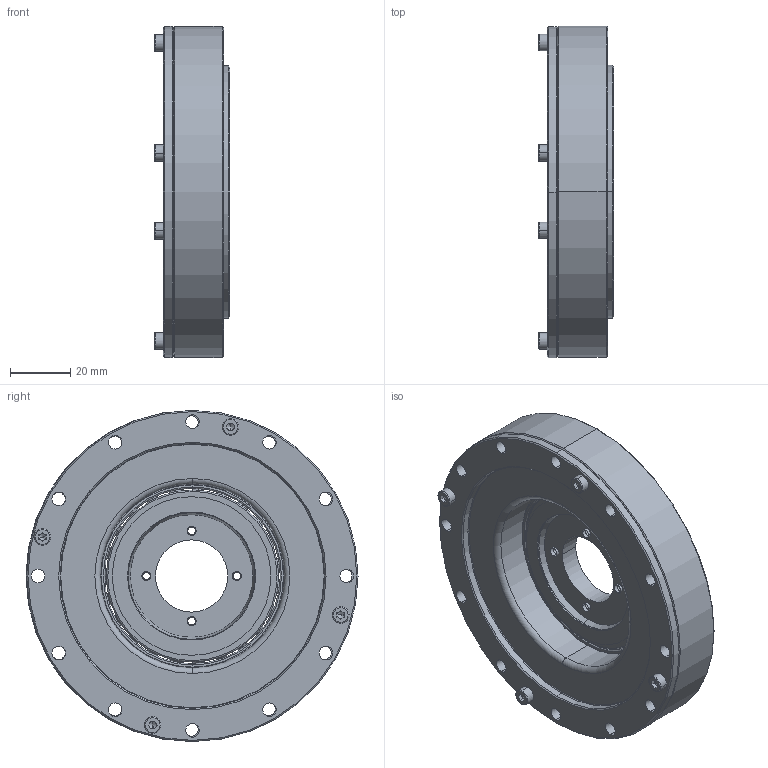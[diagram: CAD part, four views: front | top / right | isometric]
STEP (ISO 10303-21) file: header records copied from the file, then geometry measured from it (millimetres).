
FILE_DESCRIPTION((''),'2;1');
FILE_NAME('LHD-25-XXX-C-I_ASM','2022-11-11T',('700zh'),(''),'PRO/ENGINEER BY PARAMETRIC TECHNOLOGY CORPORATION, 2014200','PRO/ENGINEER BY PARAMETRIC TECHNOLOGY CORPORATION, 2014200','');
FILE_SCHEMA(('AUTOMOTIVE_DESIGN { 1 0 10303 214 1 1 1 1 }'));
Length unit declared in the file: millimetre
Products named in the file (16): DIN_912_M3_X_8_---_8C_DIN_912_M; YF-25-I; DIN_912_M3_X_6_---_6C_DIN_912_M; PRT0002; 淝蹈_埴-190; PRT0003; RZC-25内外圈__ASM; RZC-25_ASM; LHD-25-XXX-P02; 淝蹈_埴-6230; 淝蹈_埴-14795; LHD-25-XXX-P04_ASM; LHD-25-XXX-P03; LHD-25-XXX-P01; ASM0002_ASM; LHD-25-XXX-C-I_ASM
Assembly tree (23 placements, depth 5):
  LHD-25-XXX-C-I_ASM
    ASM0002_ASM
      DIN_912_M3_X_8_---_8C_DIN_912_M  x4
      YF-25-I
      DIN_912_M3_X_6_---_6C_DIN_912_M  x6
      RZC-25_ASM
        PRT0002
        RZC-25内外圈__ASM
          淝蹈_埴-190
          PRT0003
      LHD-25-XXX-P02
      LHD-25-XXX-P04_ASM
        淝蹈_埴-6230
        淝蹈_埴-14795
      LHD-25-XXX-P03
      LHD-25-XXX-P01
Bounding box: 25 x 110.26 x 110 mm (x, y, z)
Volume: 121017.5 mm3; surface area: 93065.9 mm2
Topology: 19 solids, 23 shells, 879 faces, 2404 edges, 1476 vertices
Faces by surface type: cylinder 346, plane 241, cone 122, sphere 92, torus 78
Entity records: 23845 total; most frequent: CARTESIAN_POINT 5183, DIRECTION 4138, ORIENTED_EDGE 3584, AXIS2_PLACEMENT_3D 1842, EDGE_CURVE 1800, VERTEX_POINT 1212, CIRCLE 1116, EDGE_LOOP 834
